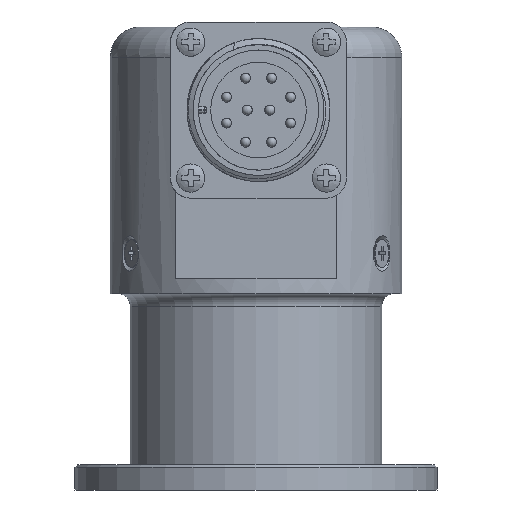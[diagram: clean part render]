
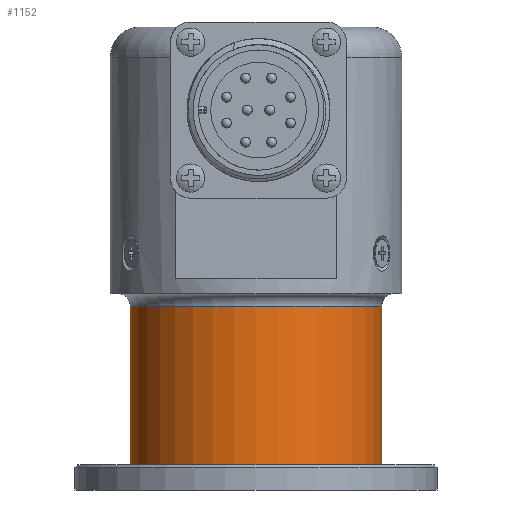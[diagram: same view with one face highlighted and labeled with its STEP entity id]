
A CAD part, front view. The second image highlights one B-rep face of the part: STEP entity #1152.
In plain terms, the highlighted cylindrical face has radius 25 mm (diameter 50 mm), a full revolution.
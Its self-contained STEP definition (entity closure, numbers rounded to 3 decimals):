
#1152 = ADVANCED_FACE( '', ( #2806, #2807, #2808, #2809 ), #2810, .T. );
#2806 = FACE_OUTER_BOUND( '', #9677, .T. );
#2807 = FACE_OUTER_BOUND( '', #9678, .T. );
#2808 = FACE_BOUND( '', #9679, .T. );
#2809 = FACE_BOUND( '', #9680, .T. );
#2810 = CYLINDRICAL_SURFACE( '', #9681, 25. );
#9677 = EDGE_LOOP( '', ( #23006 ) );
#9678 = EDGE_LOOP( '', ( #23007 ) );
#9679 = EDGE_LOOP( '', ( #23008 ) );
#9680 = EDGE_LOOP( '', ( #23009 ) );
#9681 = AXIS2_PLACEMENT_3D( '', #23010, #23011, #23012 );
#23006 = ORIENTED_EDGE( '', *, *, #27239, .T. );
#23007 = ORIENTED_EDGE( '', *, *, #27240, .F. );
#23008 = ORIENTED_EDGE( '', *, *, #27233, .F. );
#23009 = ORIENTED_EDGE( '', *, *, #26366, .F. );
#23010 = CARTESIAN_POINT( '', ( 0., 0., -74.948 ) );
#23011 = DIRECTION( '', ( 0., 0., -1. ) );
#23012 = DIRECTION( '', ( -1., 0., 0. ) );
#26366 = EDGE_CURVE( '', #28463, #28463, #28464, .T. );
#27233 = EDGE_CURVE( '', #29874, #29874, #29875, .T. );
#27239 = EDGE_CURVE( '', #29883, #29883, #29884, .T. );
#27240 = EDGE_CURVE( '', #29885, #29885, #29886, .T. );
#28463 = VERTEX_POINT( '', #31846 );
#28464 = B_SPLINE_CURVE_WITH_KNOTS( '', 3, ( #31847, #31848, #31849, #31850, #31851, #31852, #31853, #31854, #31855, #31856, #31857, #31858, #31859, #31860, #31861, #31862, #31863, #31864, #31865 ), .UNSPECIFIED., .T., .F., ( 2, 1, 1, 1, 1, 1, 1, 1, 1, 1, 1, 1, 1, 1, 1, 1, 1, 1, 1, 1, 2 ), ( -0.125, -0.063, 0., 0.063, 0.125, 0.187, 0.25, 0.312, 0.375, 0.437, 0.5, 0.562, 0.625, 0.687, 0.75, 0.812, 0.875, 0.937, 1., 1.063, 1.125 ), .UNSPECIFIED. );
#29874 = VERTEX_POINT( '', #36346 );
#29875 = B_SPLINE_CURVE_WITH_KNOTS( '', 3, ( #36347, #36348, #36349, #36350, #36351, #36352, #36353, #36354, #36355, #36356, #36357, #36358, #36359, #36360, #36361, #36362, #36363, #36364, #36365 ), .UNSPECIFIED., .T., .F., ( 2, 1, 1, 1, 1, 1, 1, 1, 1, 1, 1, 1, 1, 1, 1, 1, 1, 1, 1, 1, 2 ), ( -0.125, -0.063, 0., 0.063, 0.125, 0.187, 0.25, 0.312, 0.375, 0.437, 0.5, 0.562, 0.625, 0.687, 0.75, 0.812, 0.875, 0.937, 1., 1.063, 1.125 ), .UNSPECIFIED. );
#29883 = VERTEX_POINT( '', #36376 );
#29884 = CIRCLE( '', #36377, 25. );
#29885 = VERTEX_POINT( '', #36378 );
#29886 = CIRCLE( '', #36379, 25. );
#31846 = CARTESIAN_POINT( '', ( 0., 25., -76.49 ) );
#31847 = CARTESIAN_POINT( '', ( -0.967, 24.987, -76.618 ) );
#31848 = CARTESIAN_POINT( '', ( -0.001, 25.007, -76.425 ) );
#31849 = CARTESIAN_POINT( '', ( 0.966, 24.987, -76.618 ) );
#31850 = CARTESIAN_POINT( '', ( 1.784, 24.939, -77.165 ) );
#31851 = CARTESIAN_POINT( '', ( 2.33, 24.892, -77.982 ) );
#31852 = CARTESIAN_POINT( '', ( 2.523, 24.872, -78.947 ) );
#31853 = CARTESIAN_POINT( '', ( 2.331, 24.892, -79.913 ) );
#31854 = CARTESIAN_POINT( '', ( 1.784, 24.939, -80.731 ) );
#31855 = CARTESIAN_POINT( '', ( 0.967, 24.987, -81.278 ) );
#31856 = CARTESIAN_POINT( '', ( 0.001, 25.007, -81.471 ) );
#31857 = CARTESIAN_POINT( '', ( -0.964, 24.987, -81.279 ) );
#31858 = CARTESIAN_POINT( '', ( -1.782, 24.94, -80.733 ) );
#31859 = CARTESIAN_POINT( '', ( -2.329, 24.892, -79.916 ) );
#31860 = CARTESIAN_POINT( '', ( -2.523, 24.872, -78.95 ) );
#31861 = CARTESIAN_POINT( '', ( -2.331, 24.892, -77.984 ) );
#31862 = CARTESIAN_POINT( '', ( -1.785, 24.939, -77.166 ) );
#31863 = CARTESIAN_POINT( '', ( -0.967, 24.987, -76.618 ) );
#31864 = CARTESIAN_POINT( '', ( -0.001, 25.007, -76.425 ) );
#31865 = CARTESIAN_POINT( '', ( 0.966, 24.987, -76.618 ) );
#36346 = CARTESIAN_POINT( '', ( 0., 25., -93.49 ) );
#36347 = CARTESIAN_POINT( '', ( -0.967, 24.987, -93.618 ) );
#36348 = CARTESIAN_POINT( '', ( -0.001, 25.007, -93.425 ) );
#36349 = CARTESIAN_POINT( '', ( 0.966, 24.987, -93.618 ) );
#36350 = CARTESIAN_POINT( '', ( 1.784, 24.939, -94.165 ) );
#36351 = CARTESIAN_POINT( '', ( 2.33, 24.892, -94.982 ) );
#36352 = CARTESIAN_POINT( '', ( 2.523, 24.872, -95.947 ) );
#36353 = CARTESIAN_POINT( '', ( 2.331, 24.892, -96.913 ) );
#36354 = CARTESIAN_POINT( '', ( 1.784, 24.939, -97.731 ) );
#36355 = CARTESIAN_POINT( '', ( 0.967, 24.987, -98.278 ) );
#36356 = CARTESIAN_POINT( '', ( 0.001, 25.007, -98.471 ) );
#36357 = CARTESIAN_POINT( '', ( -0.964, 24.987, -98.279 ) );
#36358 = CARTESIAN_POINT( '', ( -1.782, 24.94, -97.733 ) );
#36359 = CARTESIAN_POINT( '', ( -2.329, 24.892, -96.916 ) );
#36360 = CARTESIAN_POINT( '', ( -2.523, 24.872, -95.95 ) );
#36361 = CARTESIAN_POINT( '', ( -2.331, 24.892, -94.984 ) );
#36362 = CARTESIAN_POINT( '', ( -1.785, 24.939, -94.166 ) );
#36363 = CARTESIAN_POINT( '', ( -0.967, 24.987, -93.618 ) );
#36364 = CARTESIAN_POINT( '', ( -0.001, 25.007, -93.425 ) );
#36365 = CARTESIAN_POINT( '', ( 0.966, 24.987, -93.618 ) );
#36376 = CARTESIAN_POINT( '', ( -25., 0., -67.448 ) );
#36377 = AXIS2_PLACEMENT_3D( '', #40961, #40962, #40963 );
#36378 = CARTESIAN_POINT( '', ( -25., 0., -98.948 ) );
#36379 = AXIS2_PLACEMENT_3D( '', #40964, #40965, #40966 );
#40961 = CARTESIAN_POINT( '', ( 0., 0., -67.448 ) );
#40962 = DIRECTION( '', ( 0., 0., -1. ) );
#40963 = DIRECTION( '', ( -1., 0., 0. ) );
#40964 = CARTESIAN_POINT( '', ( 0., 0., -98.948 ) );
#40965 = DIRECTION( '', ( 0., 0., -1. ) );
#40966 = DIRECTION( '', ( -1., 0., 0. ) );
